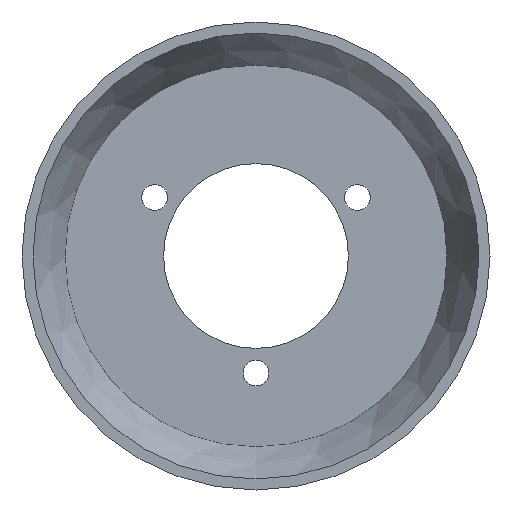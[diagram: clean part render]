
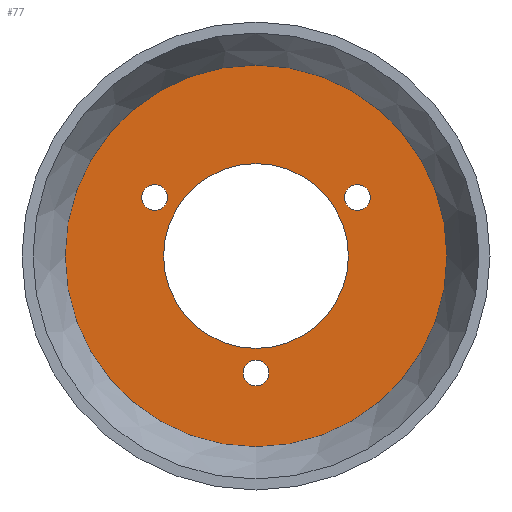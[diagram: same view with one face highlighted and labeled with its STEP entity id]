
A CAD part, front view. The second image highlights one B-rep face of the part: STEP entity #77.
In plain terms, the highlighted planar face has unit normal (0, -1, 0).
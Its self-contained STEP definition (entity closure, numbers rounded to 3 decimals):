
#77 = ADVANCED_FACE( '', ( #91, #92, #93, #94, #95 ), #96, .T. );
#91 = FACE_OUTER_BOUND( '', #124, .T. );
#92 = FACE_BOUND( '', #125, .T. );
#93 = FACE_BOUND( '', #126, .T. );
#94 = FACE_BOUND( '', #127, .T. );
#95 = FACE_BOUND( '', #128, .T. );
#96 = PLANE( '', #129 );
#124 = EDGE_LOOP( '', ( #161 ) );
#125 = EDGE_LOOP( '', ( #162 ) );
#126 = EDGE_LOOP( '', ( #163 ) );
#127 = EDGE_LOOP( '', ( #164 ) );
#128 = EDGE_LOOP( '', ( #165 ) );
#129 = AXIS2_PLACEMENT_3D( '', #166, #167, #168 );
#161 = ORIENTED_EDGE( '', *, *, #203, .T. );
#162 = ORIENTED_EDGE( '', *, *, #205, .T. );
#163 = ORIENTED_EDGE( '', *, *, #206, .T. );
#164 = ORIENTED_EDGE( '', *, *, #207, .T. );
#165 = ORIENTED_EDGE( '', *, *, #208, .F. );
#166 = CARTESIAN_POINT( '', ( 7.5, 5.2, 0. ) );
#167 = DIRECTION( '', ( 0., -1., 0. ) );
#168 = DIRECTION( '', ( 0., 0., -1. ) );
#203 = EDGE_CURVE( '', #216, #216, #217, .T. );
#205 = EDGE_CURVE( '', #220, #220, #221, .F. );
#206 = EDGE_CURVE( '', #222, #222, #223, .F. );
#207 = EDGE_CURVE( '', #224, #224, #225, .F. );
#208 = EDGE_CURVE( '', #226, #226, #227, .T. );
#216 = VERTEX_POINT( '', #240 );
#217 = CIRCLE( '', #241, 15.506 );
#220 = VERTEX_POINT( '', #244 );
#221 = CIRCLE( '', #245, 1.05 );
#222 = VERTEX_POINT( '', #246 );
#223 = CIRCLE( '', #247, 1.05 );
#224 = VERTEX_POINT( '', #248 );
#225 = CIRCLE( '', #249, 1.05 );
#226 = VERTEX_POINT( '', #250 );
#227 = CIRCLE( '', #251, 7.5 );
#240 = CARTESIAN_POINT( '', ( 0., 5.2, -15.506 ) );
#241 = AXIS2_PLACEMENT_3D( '', #265, #266, #267 );
#244 = CARTESIAN_POINT( '', ( 0., 5.2, -10.55 ) );
#245 = AXIS2_PLACEMENT_3D( '', #271, #272, #273 );
#246 = CARTESIAN_POINT( '', ( -8.227, 5.2, 3.7 ) );
#247 = AXIS2_PLACEMENT_3D( '', #274, #275, #276 );
#248 = CARTESIAN_POINT( '', ( 8.227, 5.2, 3.7 ) );
#249 = AXIS2_PLACEMENT_3D( '', #277, #278, #279 );
#250 = CARTESIAN_POINT( '', ( 0., 5.2, -7.5 ) );
#251 = AXIS2_PLACEMENT_3D( '', #280, #281, #282 );
#265 = CARTESIAN_POINT( '', ( 0., 5.2, 0. ) );
#266 = DIRECTION( '', ( 0., -1., 0. ) );
#267 = DIRECTION( '', ( 0., 0., -1. ) );
#271 = CARTESIAN_POINT( '', ( 0., 5.2, -9.5 ) );
#272 = DIRECTION( '', ( 0., -1., 0. ) );
#273 = DIRECTION( '', ( 0., 0., -1. ) );
#274 = CARTESIAN_POINT( '', ( -8.227, 5.2, 4.75 ) );
#275 = DIRECTION( '', ( 0., -1., 0. ) );
#276 = DIRECTION( '', ( 0., 0., -1. ) );
#277 = CARTESIAN_POINT( '', ( 8.227, 5.2, 4.75 ) );
#278 = DIRECTION( '', ( 0., -1., 0. ) );
#279 = DIRECTION( '', ( 0., 0., -1. ) );
#280 = CARTESIAN_POINT( '', ( 0., 5.2, 0. ) );
#281 = DIRECTION( '', ( 0., -1., 0. ) );
#282 = DIRECTION( '', ( 0., 0., -1. ) );
